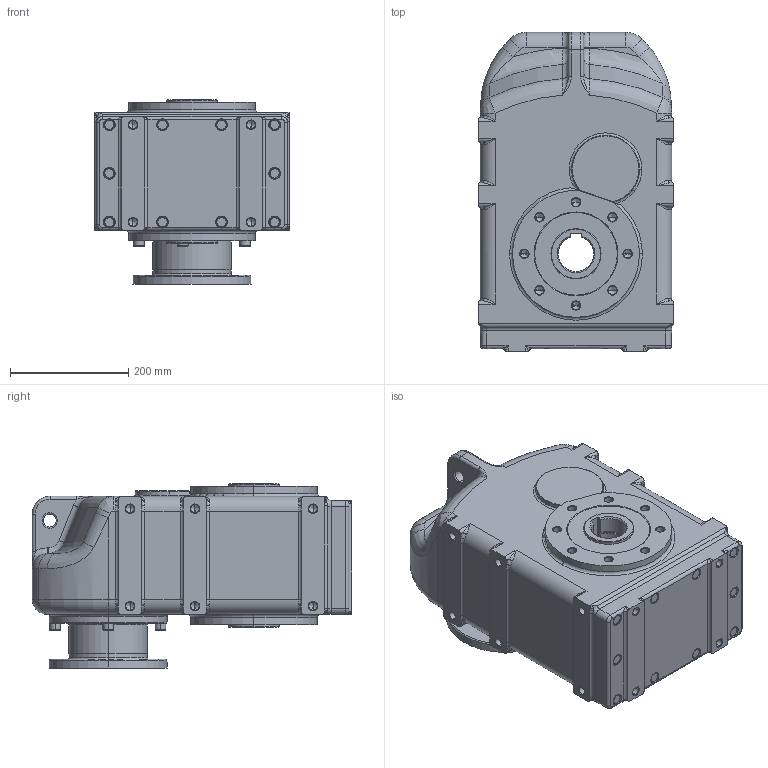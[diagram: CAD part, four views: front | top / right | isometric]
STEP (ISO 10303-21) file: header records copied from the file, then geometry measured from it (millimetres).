
FILE_DESCRIPTION (( 'STEP AP214' ), '1' );
FILE_NAME ('tnc52-f165-ap90.STEP', '2009-09-18T08:57:00', ( '' ), ( '' ), 'SwSTEP 2.0', 'SolidWorks 2003240', '' );
FILE_SCHEMA (( 'AUTOMOTIVE_DESIGN' ));
Length unit declared in the file: millimetre
Products named in the file (4): N021143_Šroub s vnitøním šestihranem DIN 912 - M8 x 25; Pøíruba MRT150 kulatá _130-165-188; Skøíò TNC5_Skøíò TNC52 AP90; tnc52-f165-ap90
Assembly tree (8 placements, depth 2):
  tnc52-f165-ap90
    Skøíò TNC5_Skøíò TNC52 AP90
    N021143_Šroub s vnitøním šestihranem DIN 912 - M8 x 25  x6
    Pøíruba MRT150 kulatá _130-165-188
Bounding box: 330 x 541 x 312 mm (x, y, z)
Volume: 33816638.5 mm3; surface area: 902478.8 mm2
Topology: 8 solids, 8 shells, 988 faces, 2276 edges, 1283 vertices
Faces by surface type: cylinder 312, cone 256, plane 187, torus 152, bspline 81
Entity records: 113658 total; most frequent: CARTESIAN_POINT 93380, DIRECTION 4345, ORIENTED_EDGE 3852, EDGE_CURVE 1926, AXIS2_PLACEMENT_3D 1812, VERTEX_POINT 1153, CIRCLE 1024, EDGE_LOOP 963
